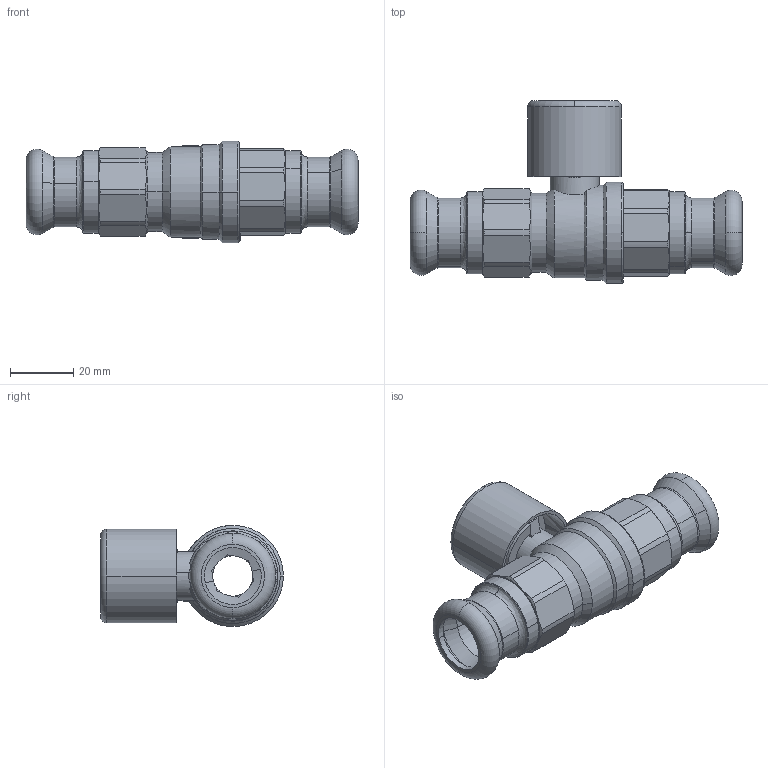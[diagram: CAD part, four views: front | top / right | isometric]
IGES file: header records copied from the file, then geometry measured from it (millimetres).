
Global section: file name: No Iges File Name specified; native system: AutoDesk Inventor R12.0; preprocessor: AutoDesk Inventor Iges Exporter R12.0; date: 20111118.130028; units: millimetre
Bounding box: 104.9 x 57.8 x 32 mm (x, y, z)
Volume: 45496.3 mm3; surface area: 27141.5 mm2
Topology: 1 solids, 1 shells, 405 faces, 1306 edges, 942 vertices
Faces by surface type: plane 154, cone 79, revolution 76, cylinder 58, bspline 22, torus 16
